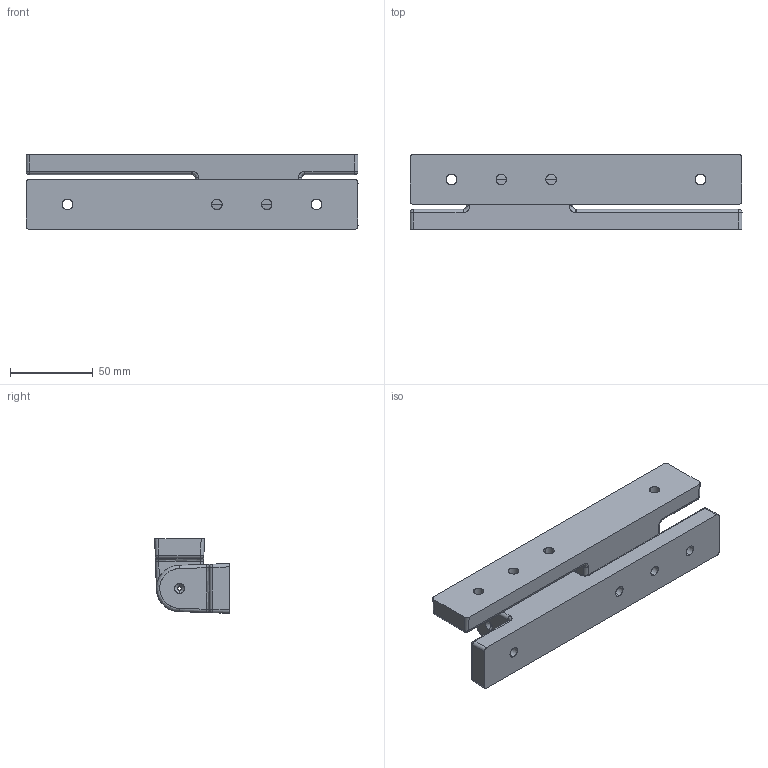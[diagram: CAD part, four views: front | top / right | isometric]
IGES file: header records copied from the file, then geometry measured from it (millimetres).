
Start section: SolidWorks IGES file using analytic representation for surfaces
Bounding box: 200 x 45 x 45 mm (x, y, z)
Surface area: 46754 mm2 (no closed solid volume)
Topology: 0 solids, 0 shells, 142 faces, 1668 edges, 1668 vertices
Faces by surface type: revolution 102, bspline 40
